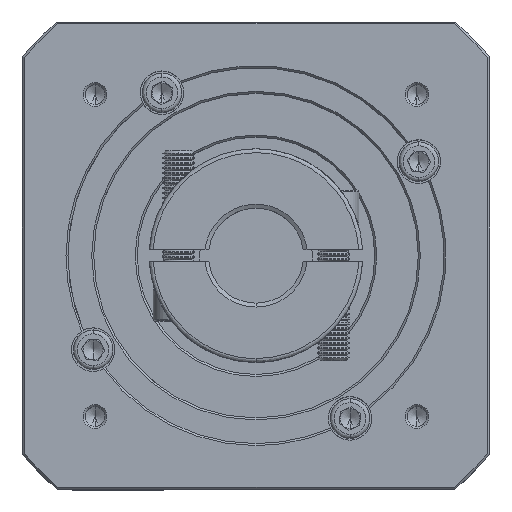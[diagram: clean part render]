
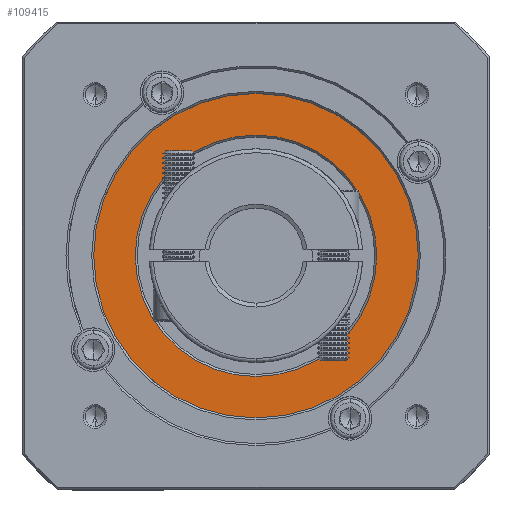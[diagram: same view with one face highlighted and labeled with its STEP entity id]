
A CAD part, top view. The second image highlights one B-rep face of the part: STEP entity #109415.
In plain terms, the highlighted planar face has unit normal (0, 0, 1).
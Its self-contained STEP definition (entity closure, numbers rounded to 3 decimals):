
#10408 = CARTESIAN_POINT ( 'NONE',  ( 48.659, 66.552, -31.596 ) ) ;
#16996 = EDGE_CURVE ( 'NONE', #82999, #62484, #80638, .T. ) ;
#21698 = AXIS2_PLACEMENT_3D ( 'NONE', #10408, #29174, #105483 ) ;
#21987 = DIRECTION ( 'NONE',  ( 0., 0., 1. ) ) ;
#22367 = VERTEX_POINT ( 'NONE', #94337 ) ;
#24618 = ORIENTED_EDGE ( 'NONE', *, *, #79373, .T. ) ;
#24981 = CIRCLE ( 'NONE', #21698, 41. ) ;
#29174 = DIRECTION ( 'NONE',  ( 0., 0., 1. ) ) ;
#29469 = DIRECTION ( 'NONE',  ( 0., 0., -1. ) ) ;
#30200 = DIRECTION ( 'NONE',  ( 0., 0., -1. ) ) ;
#31782 = CARTESIAN_POINT ( 'NONE',  ( 48.659, 66.552, -31.596 ) ) ;
#32627 = DIRECTION ( 'NONE',  ( 0., -1., 0. ) ) ;
#36650 = VERTEX_POINT ( 'NONE', #83864 ) ;
#40969 = DIRECTION ( 'NONE',  ( 0., -1., 0. ) ) ;
#41695 = DIRECTION ( 'NONE',  ( 0., -1., 0. ) ) ;
#49094 = FACE_OUTER_BOUND ( 'NONE', #95924, .T. ) ;
#50300 = ORIENTED_EDGE ( 'NONE', *, *, #16996, .T. ) ;
#51162 = DIRECTION ( 'NONE',  ( 0., 0., 1. ) ) ;
#53822 = FACE_BOUND ( 'NONE', #90624, .T. ) ;
#62484 = VERTEX_POINT ( 'NONE', #128743 ) ;
#67418 = CIRCLE ( 'NONE', #70234, 30.5 ) ;
#70234 = AXIS2_PLACEMENT_3D ( 'NONE', #89211, #29469, #90540 ) ;
#72716 = PLANE ( 'NONE',  #108069 ) ;
#77985 = EDGE_CURVE ( 'NONE', #22367, #36650, #67418, .T. ) ;
#79373 = EDGE_CURVE ( 'NONE', #36650, #22367, #123581, .T. ) ;
#80638 = CIRCLE ( 'NONE', #100281, 41. ) ;
#82999 = VERTEX_POINT ( 'NONE', #120225 ) ;
#83864 = CARTESIAN_POINT ( 'NONE',  ( 48.659, 97.052, -31.596 ) ) ;
#86767 = EDGE_CURVE ( 'NONE', #62484, #82999, #24981, .T. ) ;
#89211 = CARTESIAN_POINT ( 'NONE',  ( 48.659, 66.552, -31.596 ) ) ;
#90540 = DIRECTION ( 'NONE',  ( 0., -1., 0. ) ) ;
#90624 = EDGE_LOOP ( 'NONE', ( #90927, #24618 ) ) ;
#90927 = ORIENTED_EDGE ( 'NONE', *, *, #77985, .T. ) ;
#93475 = ORIENTED_EDGE ( 'NONE', *, *, #86767, .T. ) ;
#94337 = CARTESIAN_POINT ( 'NONE',  ( 48.659, 36.052, -31.596 ) ) ;
#95924 = EDGE_LOOP ( 'NONE', ( #93475, #50300 ) ) ;
#100281 = AXIS2_PLACEMENT_3D ( 'NONE', #113076, #21987, #32627 ) ;
#102490 = CARTESIAN_POINT ( 'NONE',  ( 48.659, 66.552, -31.596 ) ) ;
#105483 = DIRECTION ( 'NONE',  ( 0., -1., 0. ) ) ;
#108069 = AXIS2_PLACEMENT_3D ( 'NONE', #31782, #51162, #41695 ) ;
#109415 = ADVANCED_FACE ( 'NONE', ( #49094, #53822 ), #72716, .T. ) ;
#113076 = CARTESIAN_POINT ( 'NONE',  ( 48.659, 66.552, -31.596 ) ) ;
#120225 = CARTESIAN_POINT ( 'NONE',  ( 48.659, 107.552, -31.596 ) ) ;
#123581 = CIRCLE ( 'NONE', #129802, 30.5 ) ;
#128743 = CARTESIAN_POINT ( 'NONE',  ( 48.659, 25.552, -31.596 ) ) ;
#129802 = AXIS2_PLACEMENT_3D ( 'NONE', #102490, #30200, #40969 ) ;
